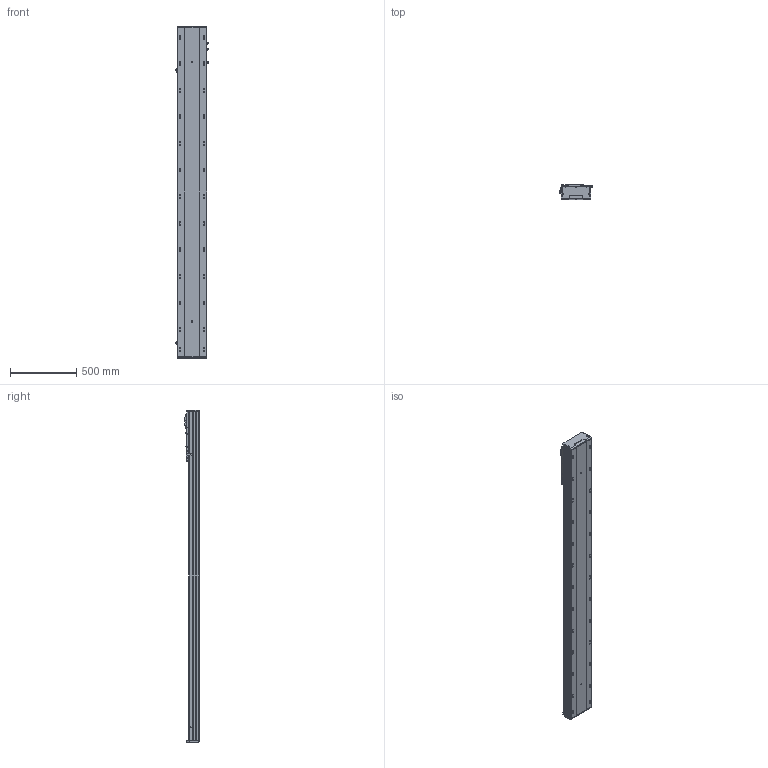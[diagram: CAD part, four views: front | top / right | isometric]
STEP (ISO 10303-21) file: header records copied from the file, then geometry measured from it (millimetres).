
FILE_DESCRIPTION (( 'STEP AP203' ), '1' );
FILE_NAME ('BEH22-A-M2-2050-L1-¦Õ22-PCD100-M6-C3.STEP', '2022-06-21T05:53:19', ( 'CXY' ), ( 'BT' ), 'SwSTEP 2.0', 'SolidWorks 2016', '' );
FILE_SCHEMA (( 'CONFIG_CONTROL_DESIGN' ));
Length unit declared in the file: millimetre
Products named in the file (12): BEH22-04-01_L; BEH22-B-01-XX-2; FS-25-6.66-M2-H22K6; BEH22-07-PCD100-80-M6; 萇儂階踡輸; FS-01-10（10毫米）; BTH22-07-DZ; BEH22-04-F; PM-T65; FS-02-BTH22; BEH22-A-M2-2050-L1-耳22-PCD100-M6-C3; _G-M6
Assembly tree (18 placements, depth 3):
  BEH22-A-M2-2050-L1-耳22-PCD100-M6-C3
    BEH22-B-01-XX-2
    BTH22-07-DZ  x2
    PM-T65  x2
    BEH22-04-01_L
      BEH22-04-F
      萇儂階踡輸
      _G-M6  x3
      FS-02-BTH22
      FS-01-10（10毫米）  x4
      BEH22-07-PCD100-80-M6
      FS-25-6.66-M2-H22K6
Bounding box: 247.7 x 111 x 2498 mm (x, y, z)
Volume: 26494845.6 mm3; surface area: 2641337.3 mm2
Topology: 21 solids, 21 shells, 2166 faces, 6214 edges, 4022 vertices
Faces by surface type: cylinder 1048, plane 826, cone 233, bspline 37, torus 22
Entity records: 457894 total; most frequent: CARTESIAN_POINT 410711, ORIENTED_EDGE 10248, DIRECTION 8892, EDGE_CURVE 5124, VERTEX_POINT 3382, AXIS2_PLACEMENT_3D 3250, VECTOR 2392, LINE 2392
